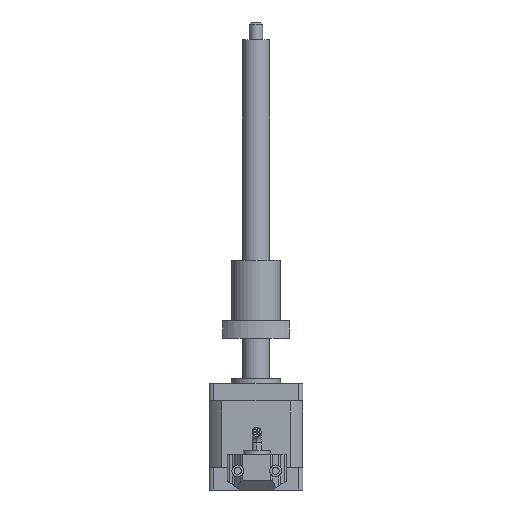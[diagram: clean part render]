
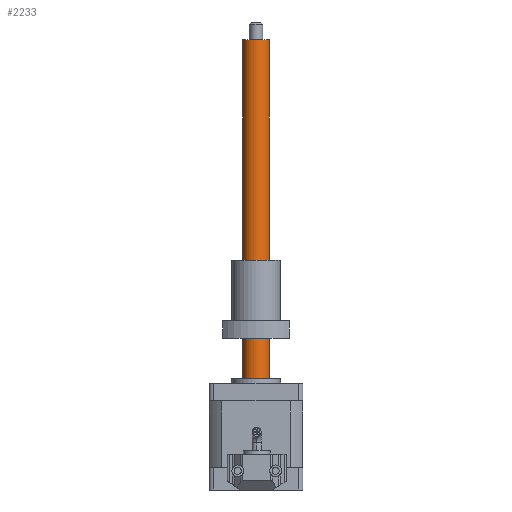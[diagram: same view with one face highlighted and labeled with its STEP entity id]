
A CAD part, front view. The second image highlights one B-rep face of the part: STEP entity #2233.
In plain terms, the highlighted cylindrical face has radius 6 mm (diameter 12 mm), a partial arc.
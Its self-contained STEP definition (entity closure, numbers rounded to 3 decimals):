
#163 = AXIS2_PLACEMENT_3D ( 'NONE', #2662, #269, #2699 ) ;
#215 = EDGE_CURVE ( 'NONE', #1507, #449, #4882, .T. ) ;
#269 = DIRECTION ( 'NONE',  ( 0., 0., -1. ) ) ;
#309 = CIRCLE ( 'NONE', #3631, 6. ) ;
#383 = VERTEX_POINT ( 'NONE', #4953 ) ;
#448 = DIRECTION ( 'NONE',  ( 0., 0., 1. ) ) ;
#449 = VERTEX_POINT ( 'NONE', #3381 ) ;
#718 = DIRECTION ( 'NONE',  ( 0., 0., -1. ) ) ;
#1237 = CARTESIAN_POINT ( 'NONE',  ( -6., 0., 210. ) ) ;
#1450 = ORIENTED_EDGE ( 'NONE', *, *, #4936, .F. ) ;
#1507 = VERTEX_POINT ( 'NONE', #4620 ) ;
#1513 = ORIENTED_EDGE ( 'NONE', *, *, #215, .T. ) ;
#1738 = CARTESIAN_POINT ( 'NONE',  ( 6., 0., 210. ) ) ;
#1864 = FACE_OUTER_BOUND ( 'NONE', #2697, .T. ) ;
#1920 = CARTESIAN_POINT ( 'NONE',  ( 0., 0., 50. ) ) ;
#2099 = LINE ( 'NONE', #1738, #2535 ) ;
#2167 = CYLINDRICAL_SURFACE ( 'NONE', #163, 6. ) ;
#2169 = CARTESIAN_POINT ( 'NONE',  ( 6., 0., 202. ) ) ;
#2233 = ADVANCED_FACE ( 'NONE', ( #1864 ), #2167, .T. ) ;
#2535 = VECTOR ( 'NONE', #4505, 1000. ) ;
#2662 = CARTESIAN_POINT ( 'NONE',  ( 0., 0., 210. ) ) ;
#2697 = EDGE_LOOP ( 'NONE', ( #1450, #3011, #1513, #4055 ) ) ;
#2699 = DIRECTION ( 'NONE',  ( -1., 0., 0. ) ) ;
#2782 = VERTEX_POINT ( 'NONE', #2169 ) ;
#2844 = VECTOR ( 'NONE', #3618, 1000. ) ;
#3011 = ORIENTED_EDGE ( 'NONE', *, *, #3814, .F. ) ;
#3381 = CARTESIAN_POINT ( 'NONE',  ( -6., 0., 50. ) ) ;
#3451 = DIRECTION ( 'NONE',  ( 1., 0., 0. ) ) ;
#3513 = EDGE_CURVE ( 'NONE', #383, #449, #4198, .T. ) ;
#3618 = DIRECTION ( 'NONE',  ( 0., 0., -1. ) ) ;
#3631 = AXIS2_PLACEMENT_3D ( 'NONE', #4874, #448, #4034 ) ;
#3814 = EDGE_CURVE ( 'NONE', #1507, #2782, #309, .T. ) ;
#4034 = DIRECTION ( 'NONE',  ( 1., 0., 0. ) ) ;
#4055 = ORIENTED_EDGE ( 'NONE', *, *, #3513, .F. ) ;
#4198 = CIRCLE ( 'NONE', #4967, 6. ) ;
#4505 = DIRECTION ( 'NONE',  ( 0., 0., -1. ) ) ;
#4620 = CARTESIAN_POINT ( 'NONE',  ( -6., 0., 202. ) ) ;
#4874 = CARTESIAN_POINT ( 'NONE',  ( 0., 0., 202. ) ) ;
#4882 = LINE ( 'NONE', #1237, #2844 ) ;
#4936 = EDGE_CURVE ( 'NONE', #2782, #383, #2099, .T. ) ;
#4953 = CARTESIAN_POINT ( 'NONE',  ( 6., 0., 50. ) ) ;
#4967 = AXIS2_PLACEMENT_3D ( 'NONE', #1920, #718, #3451 ) ;
